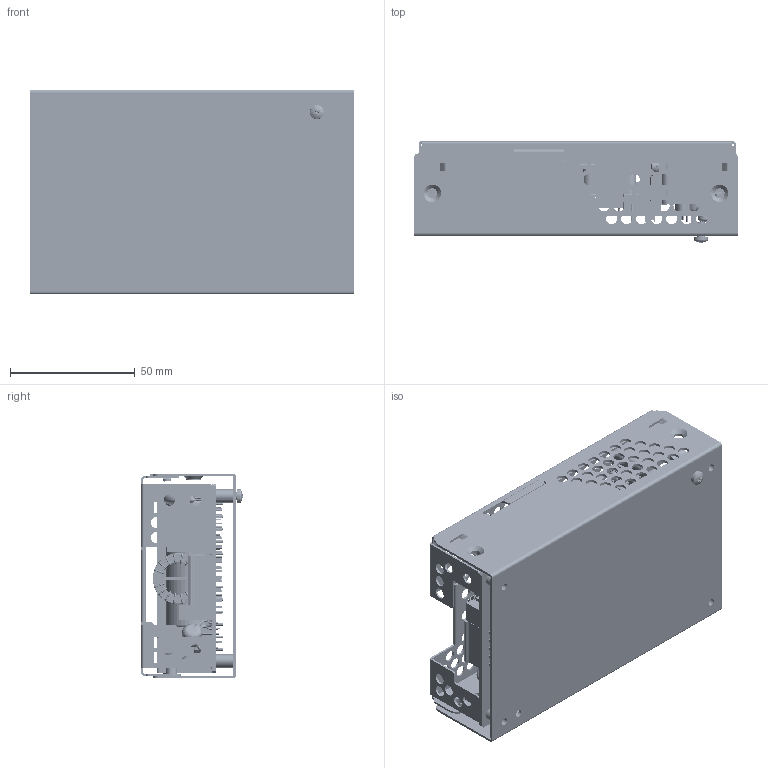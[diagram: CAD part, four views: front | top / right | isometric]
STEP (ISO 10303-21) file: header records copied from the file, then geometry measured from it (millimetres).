
FILE_DESCRIPTION (( 'STEP AP214' ), '1' );
FILE_NAME ('CUT75_A.STEP', '2014-06-27T09:09:13', ( '' ), ( '' ), 'SwSTEP 2.0', 'SolidWorks 2014', '' );
FILE_SCHEMA (( 'AUTOMOTIVE_DESIGN' ));
Length unit declared in the file: millimetre
Products named in the file (41): C2; YCA809-32-01; PC95EI28; CHASSIS-12; DE1E3KXxxxxJ4_152M; EMI CHOKE; CUT75_A; F1; BRIDGE; BOBBIN; M10010C_DIA13; CT-6EMS_______; 电容10x20; TO-220AB_______; YCA809-32-02; C6; SEMS M3_x6; OUTPUT-1; CA100-32-32; B8P-VH_B8P-VH; JIS B 1111 Cross recessed pan head screw - M3 x 6 - Z --6N; OUTPUT; C54; HS-YCA809-32-02; B5P-VH_B4P-VH; JIS B 1251 No.2 3; C51; T1; insulation sheet-2; 电容13x20; YCCB163; JIS B 1256 Small circular 3; PC95EI28-1; COVER-13; MPX2 0.68u
Assembly tree (60 placements, depth 3):
  CUT75_A
    YCCB163
    B5P-VH_B4P-VH
    B8P-VH_B8P-VH
    C6
    T1  x2
      BOBBIN
      PC95EI28
      PC95EI28-1
    C54  x3
    电容10x20
    电容10x20
    EMI CHOKE
    MPX2 0.68u
    电容13x20
    YCA809-32-02
      HS-YCA809-32-02
      CA100-32-32
    BRIDGE
    YCA809-32-01
      YCA809-32-01
      CA100-32-32  x2
    C51  x2
    OUTPUT  x2
    OUTPUT-1
    CT-6EMS_______
    DE1E3KXxxxxJ4_152M  x3
    TO-220AB_______
    TO-220AB_______
    TO-220AB_______
    TO-220AB_______
    TO-220AB_______
    F1  x2
    C2
    SEMS M3_x6  x9
      JIS B 1256 Small circular 3
      JIS B 1251 No.2 3
      JIS B 1111 Cross recessed pan head screw - M3 x 6 - Z --6N
    M10010C_DIA13
    CHASSIS-12
    COVER-13
    insulation sheet-2
    JIS B 1111 Cross recessed pan head screw - M3 x 6 - Z --6N  x2
Bounding box: 130 x 40.51 x 82.06 mm (x, y, z)
Volume: 111912.7 mm3; surface area: 143603.6 mm2
Topology: 74 solids, 74 shells, 3954 faces, 10314 edges, 6508 vertices
Faces by surface type: cylinder 1730, plane 1681, torus 280, sphere 116, cone 76, bspline 71
Entity records: 107010 total; most frequent: CARTESIAN_POINT 19646, DIRECTION 16434, ORIENTED_EDGE 15498, EDGE_CURVE 7749, AXIS2_PLACEMENT_3D 6145, VERTEX_POINT 4995, LINE 4144, VECTOR 4144
